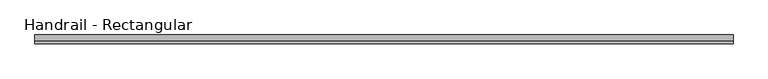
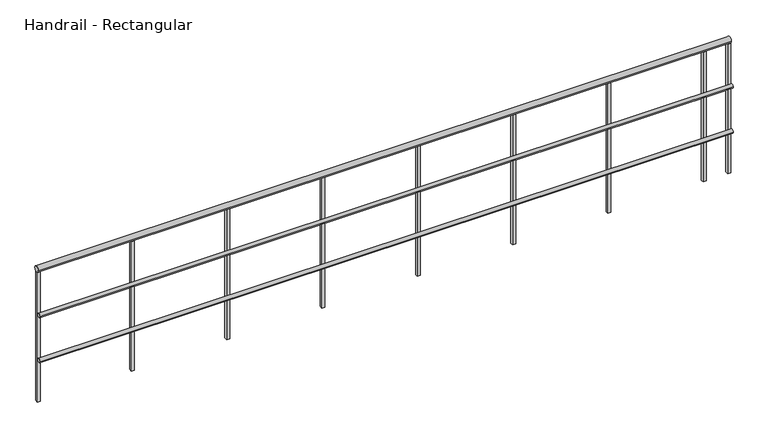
"""IFC4 building model written with IfcOpenShell, lengths in millimetres: railing geometry, Handrail - Rectangular."""

from ifc_helpers import new_model, si_unit, point, frame, frame_2d, origin, place, context, project, spatial, polyline, circle_curve, trimmed, segment, composite_curve, outline, extrude, source, transform, mapped, element, save


def handrail_rectangular_52f2a290(model_context):
    return source(origin(), model_context, "Body", "SweptSolid", [
        extrude(outline(composite_curve([segment(trimmed(circle_curve(frame_2d((-35578.5683133, 3644.9)), 12.7), [point((-35591.2683133, 3644.9))], [point((-35565.8683133, 3644.9))], False, "CARTESIAN"), True, "CONTINUOUS"), segment(trimmed(circle_curve(frame_2d((-35578.5683133, 3644.9)), 12.7), [point((-35565.8683133, 3644.9))], [point((-35591.2683133, 3644.9))], False, "CARTESIAN"), True, "CONTINUOUS")], self_intersect=False)), frame((-3862.3589563, 0.0, 0.0), z_axis=(1.0, 0.0, 0.0), x_axis=(0.0, 1.0, 0.0)), (0.0, 0.0, 1.0), 4432.3),
        extrude(outline(composite_curve([segment(trimmed(circle_curve(frame_2d((-35578.5683133, 3340.1)), 12.7), [point((-35591.2683133, 3340.1))], [point((-35565.8683133, 3340.1))], False, "CARTESIAN"), True, "CONTINUOUS"), segment(trimmed(circle_curve(frame_2d((-35578.5683133, 3340.1)), 12.7), [point((-35565.8683133, 3340.1))], [point((-35591.2683133, 3340.1))], False, "CARTESIAN"), True, "CONTINUOUS")], self_intersect=False)), frame((-3862.3589563, 0.0, 0.0), z_axis=(1.0, 0.0, 0.0), x_axis=(0.0, 1.0, 0.0)), (0.0, 0.0, 1.0), 4432.3),
        extrude(outline(composite_curve([segment(trimmed(circle_curve(frame_2d((-35553.1683133, 3943.35)), 19.05), [point((-35572.2183133, 3943.35))], [point((-35534.1183133, 3943.35))], False, "CARTESIAN"), True, "CONTINUOUS"), segment(trimmed(circle_curve(frame_2d((-35553.1683133, 3943.35)), 19.05), [point((-35534.1183133, 3943.35))], [point((-35572.2183133, 3943.35))], False, "CARTESIAN"), True, "CONTINUOUS")], self_intersect=False)), frame((-3862.3589563, 0.0, 0.0), z_axis=(1.0, 0.0, 0.0), x_axis=(0.0, 1.0, 0.0)), (0.0, 0.0, 1.0), 4432.3),
        extrude(outline(polyline([(395.3160437, -35543.6433133), (414.3660437, -35543.6433133), (414.3660437, -35562.6933133), (395.3160437, -35562.6933133), (395.3160437, -35543.6433133)])), frame((0.0, 0.0, 3048.0), z_axis=(0.0, 0.0, 1.0), x_axis=(1.0, 0.0, 0.0)), (0.0, 0.0, 1.0), 876.3),
        extrude(outline(polyline([(-214.2839563, -35543.6433133), (-195.2339563, -35543.6433133), (-195.2339563, -35562.6933133), (-214.2839563, -35562.6933133), (-214.2839563, -35543.6433133)])), frame((0.0, 0.0, 3048.0), z_axis=(0.0, 0.0, 1.0), x_axis=(1.0, 0.0, 0.0)), (0.0, 0.0, 1.0), 876.3),
        extrude(outline(polyline([(-823.8839563, -35543.6433133), (-804.8339563, -35543.6433133), (-804.8339563, -35562.6933133), (-823.8839563, -35562.6933133), (-823.8839563, -35543.6433133)])), frame((0.0, 0.0, 3048.0), z_axis=(0.0, 0.0, 1.0), x_axis=(1.0, 0.0, 0.0)), (0.0, 0.0, 1.0), 876.3),
        extrude(outline(polyline([(-1433.4839563, -35543.6433133), (-1414.4339563, -35543.6433133), (-1414.4339563, -35562.6933133), (-1433.4839563, -35562.6933133), (-1433.4839563, -35543.6433133)])), frame((0.0, 0.0, 3048.0), z_axis=(0.0, 0.0, 1.0), x_axis=(1.0, 0.0, 0.0)), (0.0, 0.0, 1.0), 876.3),
        extrude(outline(polyline([(-2043.0839563, -35543.6433133), (-2024.0339563, -35543.6433133), (-2024.0339563, -35562.6933133), (-2043.0839563, -35562.6933133), (-2043.0839563, -35543.6433133)])), frame((0.0, 0.0, 3048.0), z_axis=(0.0, 0.0, 1.0), x_axis=(1.0, 0.0, 0.0)), (0.0, 0.0, 1.0), 876.3),
        extrude(outline(polyline([(-2652.6839563, -35543.6433133), (-2633.6339563, -35543.6433133), (-2633.6339563, -35562.6933133), (-2652.6839563, -35562.6933133), (-2652.6839563, -35543.6433133)])), frame((0.0, 0.0, 3048.0), z_axis=(0.0, 0.0, 1.0), x_axis=(1.0, 0.0, 0.0)), (0.0, 0.0, 1.0), 876.3),
        extrude(outline(polyline([(-3262.2839563, -35543.6433133), (-3243.2339563, -35543.6433133), (-3243.2339563, -35562.6933133), (-3262.2839563, -35562.6933133), (-3262.2839563, -35543.6433133)])), frame((0.0, 0.0, 3048.0), z_axis=(0.0, 0.0, 1.0), x_axis=(1.0, 0.0, 0.0)), (0.0, 0.0, 1.0), 876.3),
        extrude(outline(polyline([(550.8910437, -35543.6433133), (569.9410437, -35543.6433133), (569.9410437, -35562.6933133), (550.8910437, -35562.6933133), (550.8910437, -35543.6433133)])), frame((0.0, 0.0, 3048.0), z_axis=(0.0, 0.0, 1.0), x_axis=(1.0, 0.0, 0.0)), (0.0, 0.0, 1.0), 876.3),
        extrude(outline(polyline([(-3862.3589563, -35543.6433133), (-3843.3089563, -35543.6433133), (-3843.3089563, -35562.6933133), (-3862.3589563, -35562.6933133), (-3862.3589563, -35543.6433133)])), frame((0.0, 0.0, 3048.0), z_axis=(0.0, 0.0, 1.0), x_axis=(1.0, 0.0, 0.0)), (0.0, 0.0, 1.0), 876.3),
    ])


if __name__ == "__main__":
    model = new_model("IFC4")
    model_context = context("Model", 3, world=origin())
    ifc_project = project(units=[si_unit("LENGTHUNIT", "METRE", prefix="MILLI")], contexts=[model_context])
    site = spatial("IfcSite", under=ifc_project)
    building = spatial("IfcBuilding", under=site)
    placement = place(None, origin())
    handrail_rectangular_shape = handrail_rectangular_52f2a290(model_context)
    element("IfcRailing", 1, ObjectType="Handrail - Rectangular", at=placement, inside=building, context=model_context, shape_type="MappedRepresentation", body=[
        mapped(handrail_rectangular_shape, transform((0.0, 0.0, 0.0), x_axis=(1.0, 0.0, 0.0), y_axis=(0.0, 1.0, 0.0), z_axis=(0.0, 0.0, 1.0))),
    ])
    save(model, "model.ifc")
